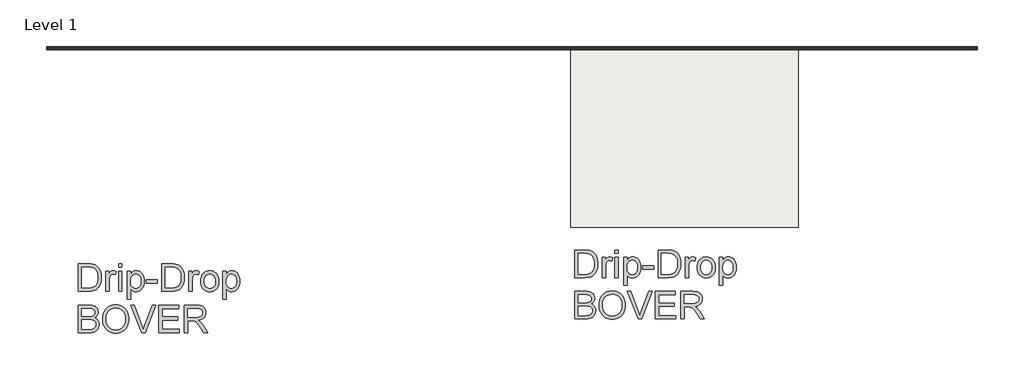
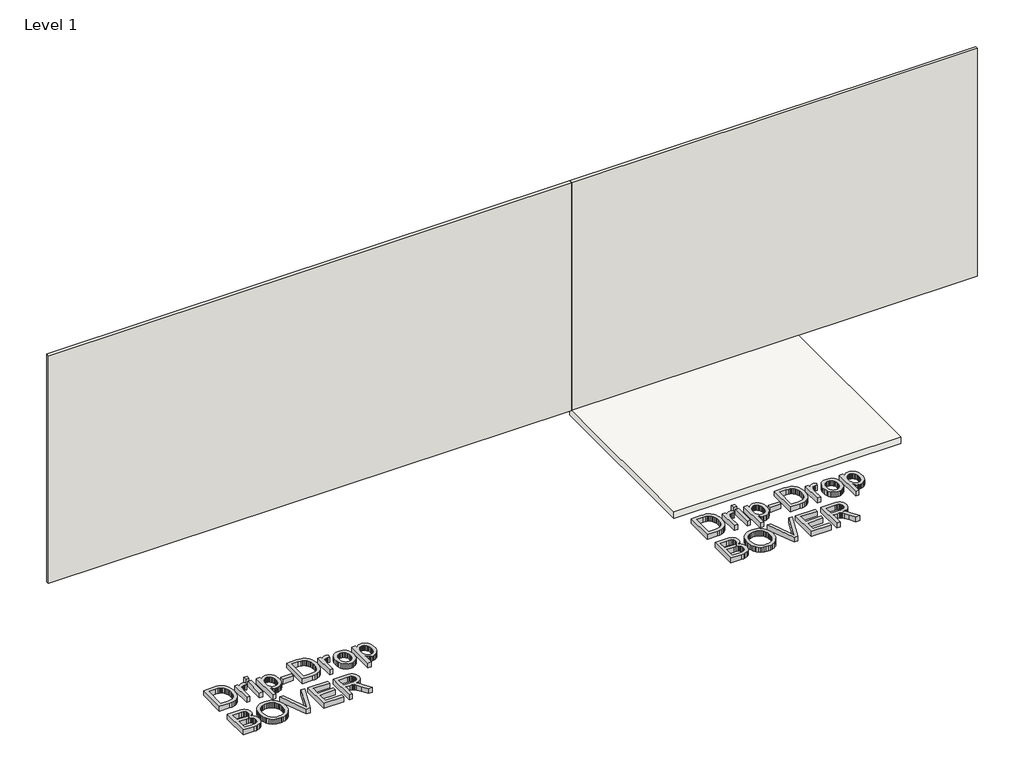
# One storey, incomplete: 4 proxies, 2 walls, 1 slab.
"""IFC4 building model written with IfcOpenShell, lengths in millimetres."""

import ifcopenshell
import ifcopenshell.guid

model = None  # the IFC model being written
_history = None  # IfcOwnerHistory: only IFC2X3 demands one
_inside = {}  # id of a spatial element -> (the spatial element, [elements in it])
_under = {}  # id of a project, library or spatial element -> (it, [spatial elements below it])
_declared = {}  # id of a project -> (the project, [libraries it declares])
_typed = {}  # id of a type object -> (the type object, [elements of that type])
_made_of = {}  # id of a material, layer set ... -> (it, [elements and type objects made of it])


def new_model(schema):
    """Start an empty IFC model of exactly this schema.

    Asked for "IFC4X3", IfcOpenShell would pick the latest addendum, in which some entities
    have other attributes; the version numbers below select the first issue.
    IFC2X3 requires an IfcOwnerHistory on every rooted entity: one is made here for all.
    """
    global model, _history
    if schema == "IFC4X3":
        model = ifcopenshell.file(schema_version=(4, 3, 0, 0))
    else:
        model = ifcopenshell.file(schema=schema)
    _inside.clear()
    _under.clear()
    _declared.clear()
    _typed.clear()
    _made_of.clear()
    _history = None
    if model.schema == "IFC2X3":
        org = make("IfcOrganization", Name="unknown")
        user = make(
            "IfcPersonAndOrganization",
            ThePerson=make("IfcPerson", FamilyName="unknown"),
            TheOrganization=org,
        )
        app = make(
            "IfcApplication",
            ApplicationDeveloper=org,
            Version="unknown",
            ApplicationFullName="unknown",
            ApplicationIdentifier="unknown",
        )
        _history = make(
            "IfcOwnerHistory",
            OwningUser=user,
            OwningApplication=app,
            ChangeAction="ADDED",
            CreationDate=0,
        )
    return model


def make(cls, **values):
    """One entity of the class cls with the attributes given. An attribute that is None is left unset."""
    return model.create_entity(
        cls, **{name: value for name, value in values.items() if value is not None}
    )


def rooted(cls, **values):
    """An entity with a GlobalId (a new one), such as an element, a storey or a relation."""
    return make(cls, GlobalId=ifcopenshell.guid.new(), OwnerHistory=_history, **values)


def si_unit(unit_type, name, prefix=None):
    """IfcSIUnit, for example si_unit("LENGTHUNIT", "METRE", prefix="MILLI")."""
    return make("IfcSIUnit", UnitType=unit_type, Prefix=prefix, Name=name)


def assignment(units):
    """IfcUnitAssignment: the units of a project."""
    return None if units is None else make("IfcUnitAssignment", Units=units)


def point(xyz):
    """IfcCartesianPoint."""
    return None if xyz is None else make("IfcCartesianPoint", Coordinates=xyz)


def direction(xyz):
    """IfcDirection."""
    return None if xyz is None else make("IfcDirection", DirectionRatios=xyz)


def frame(location, z_axis=None, x_axis=None):
    """IfcAxis2Placement3D, a coordinate frame: its origin and axes. An axis left out is left unset."""
    return make(
        "IfcAxis2Placement3D",
        Location=point(location),
        Axis=direction(z_axis),
        RefDirection=direction(x_axis),
    )


def origin():
    """The frame at (0, 0, 0) with its axes left unset."""
    return frame((0.0, 0.0, 0.0))


def origin_with_axes():
    """The frame at (0, 0, 0) with the z axis (0, 0, 1) and the x axis (1, 0, 0) written out."""
    return frame((0.0, 0.0, 0.0), z_axis=(0.0, 0.0, 1.0), x_axis=(1.0, 0.0, 0.0))


def place(relative_to, where):
    """IfcLocalPlacement: puts the frame where relative to a parent placement (None: the world)."""
    return make(
        "IfcLocalPlacement", PlacementRelTo=relative_to, RelativePlacement=where
    )


def context(
    kind, dimensions, precision=None, world=None, true_north=None, identifier=None
):
    """IfcGeometricRepresentationContext, for example the 3D "Model" context."""
    return make(
        "IfcGeometricRepresentationContext",
        ContextIdentifier=identifier,
        ContextType=kind,
        CoordinateSpaceDimension=dimensions,
        Precision=precision,
        WorldCoordinateSystem=world,
        TrueNorth=true_north,
    )


def project(units=None, contexts=None):
    """IfcProject with its units and contexts."""
    return rooted(
        "IfcProject",
        Name="project",
        RepresentationContexts=contexts,
        UnitsInContext=assignment(units),
    )


def spatial(cls, under=None, at=None, **own):
    """A site, building, storey or space (cls), placed at a placement, below another one or the project."""
    s = rooted(cls, ObjectPlacement=at, **own)
    if under is not None:
        _under.setdefault(under.id(), (under, []))[1].append(s)
    return s


def polyline(points):
    """IfcPolyline through the points."""
    return make("IfcPolyline", Points=[point(p) for p in points])


def outline(outer, holes=None, kind="AREA"):
    """IfcArbitraryClosedProfileDef: a profile drawn as a closed curve; with holes, ...WithVoids."""
    if holes is None:
        return make("IfcArbitraryClosedProfileDef", ProfileType=kind, OuterCurve=outer)
    return make(
        "IfcArbitraryProfileDefWithVoids",
        ProfileType=kind,
        OuterCurve=outer,
        InnerCurves=holes,
    )


def extrude(swept, where, along, depth):
    """IfcExtrudedAreaSolid: the profile swept, set in the frame where, extruded along a direction by depth."""
    return make(
        "IfcExtrudedAreaSolid",
        SweptArea=swept,
        Position=where,
        ExtrudedDirection=direction(along),
        Depth=depth,
    )


def shape(context_of_items, identifier, shape_type, items):
    """IfcShapeRepresentation: the items that make up one representation, for example the "Body"."""
    return make(
        "IfcShapeRepresentation",
        ContextOfItems=context_of_items,
        RepresentationIdentifier=identifier,
        RepresentationType=shape_type,
        Items=items,
    )


def made_of(thing, what):
    """Note that an element or type object is made of a material, layer set ...; save() writes the relation."""
    if what is not None:
        _made_of.setdefault(what.id(), (what, []))[1].append(thing)
    return thing


def element(
    cls,
    number,
    at=None,
    inside=None,
    cuts=None,
    type_object=None,
    material=None,
    context=None,
    identifier="Body",
    shape_type=None,
    held_by="IfcProductDefinitionShape",
    body=None,
    shapes=None,
    **own,
):
    """One element of the class cls, such as IfcWall. Its Tag is "e" and its number.

    at: its placement. inside: the storey or other place that contains it. cuts: it is an
    opening in that element (IfcRelVoidsElement). A single representation is given by context,
    identifier, shape_type and body (its items); several are given by shapes. held_by: the class
    of the entity that holds the representations. save() writes the other relations.
    """
    e = rooted(cls, Tag="e%d" % number, ObjectPlacement=at, **own)
    if body is not None:
        shapes = [shape(context, identifier, shape_type, body)]
    if shapes is not None:
        e.Representation = make(held_by, Representations=shapes)
    if inside is not None:
        _inside.setdefault(inside.id(), (inside, []))[1].append(e)
    if cuts is not None:
        rooted(
            "IfcRelVoidsElement", RelatingBuildingElement=cuts, RelatedOpeningElement=e
        )
    if type_object is not None:
        _typed.setdefault(type_object.id(), (type_object, []))[1].append(e)
    return made_of(e, material)


def aggregate(whole, parts):
    """IfcRelAggregates: a whole, such as a stair, and the parts it consists of."""
    return rooted("IfcRelAggregates", RelatingObject=whole, RelatedObjects=parts)


def save(model, path):
    """Write the relations noted so far, then the file.

    IfcRelAggregates (storeys below a building ...), IfcRelContainedInSpatialStructure (elements
    in a storey), IfcRelDefinesByType, IfcRelAssociatesMaterial and IfcRelDeclares: one each for
    every whole, place, type object, material and project.
    """
    for whole, parts in _under.values():
        aggregate(whole, parts)
    for where, things in _inside.values():
        rooted(
            "IfcRelContainedInSpatialStructure",
            RelatedElements=things,
            RelatingStructure=where,
        )
    for kind, things in _typed.values():
        rooted("IfcRelDefinesByType", RelatedObjects=things, RelatingType=kind)
    for what, things in _made_of.values():
        rooted("IfcRelAssociatesMaterial", RelatedObjects=things, RelatingMaterial=what)
    for by, libraries in _declared.values():
        rooted("IfcRelDeclares", RelatingContext=by, RelatedDefinitions=libraries)
    model.write(path)


model = new_model("IFC4")

# Units and contexts
model_context = context("Model", 3, world=origin())
ifc_project = project(units=[si_unit("LENGTHUNIT", "METRE", prefix="MILLI")], contexts=[model_context])

# Site, building, storey
site = spatial("IfcSite", under=ifc_project)
building = spatial("IfcBuilding", under=site)
storey = spatial("IfcBuildingStorey", under=building, Name="Level 1", Elevation=0.0)

# Proxies
placement = place(None, origin())
element("IfcBuildingElementProxy", 1, Name="800mm Arial", ObjectType="800mm Arial", at=placement, inside=storey, context=model_context, shape_type="SweptSolid", body=[
    extrude(outline(polyline([(-14278.0914545, -8300.9166363), (-14278.0914545, -7501.5279379), (-13973.0512847, -7501.5279379), (-13928.8041151, -7502.9977612), (-13889.1554798, -7507.407231), (-13854.1053787, -7514.7563474), (-13823.6538119, -7525.0451103), (-13797.0262251, -7538.3832992), (-13773.4480641, -7554.8806932), (-13752.9193291, -7574.5372924), (-13735.44002, -7597.3530969), (-13721.4797483, -7622.0412488), (-13711.5081256, -7647.3148905), (-13705.5251521, -7673.174022), (-13703.5308275, -7699.6186432), (-13705.2080118, -7724.0445445), (-13710.2395645, -7747.7507813), (-13718.6254856, -7770.7373536), (-13730.3657753, -7793.0042614), (-13745.4970265, -7813.8562356), (-13764.0558324, -7832.5980071), (-13786.042193, -7849.2295758), (-13811.4561083, -7863.7509419), (-13781.2972864, -7876.6073214), (-13754.8343686, -7893.3181752), (-13732.0673549, -7913.8835034), (-13712.9962455, -7938.3033058), (-13697.9259828, -7965.8335227), (-13687.1615094, -7995.730094), (-13680.7028254, -8027.9930199), (-13678.5499307, -8062.6223002), (-13684.4292238, -8118.3658053), (-13702.0671031, -8170.0596729), (-13728.3897473, -8214.0201964), (-13760.3233351, -8246.5636694), (-13799.4291727, -8270.1296326), (-13847.2685659, -8287.1576267), (-13905.4028209, -8297.4768839), (-13975.3932437, -8300.9166363), (-14278.0914545, -8300.9166363)]), holes=[polyline([(-14178.1678672, -7826.2795966), (-13995.6902224, -7826.2795966), (-13931.8718375, -7824.1328008), (-13889.1310844, -7817.6924134), (-13851.830507, -7802.8844013), (-13825.0199547, -7780.7089763), (-13808.8457998, -7751.507674), (-13803.4544148, -7715.6220303), (-13808.4798687, -7680.785389), (-13823.5562302, -7650.4375026), (-13848.0004281, -7626.7495624), (-13881.1293909, -7611.8927595), (-13931.9694192, -7604.0618338), (-14009.5468136, -7601.4515252), (-14178.1678672, -7601.4515252), (-14178.1678672, -7826.2795966)]), polyline([(-14178.1678672, -8200.993049), (-13973.2464479, -8200.993049), (-13899.0844105, -8197.0897839), (-13864.6624911, -8188.4294144), (-13836.3394235, -8175.3290808), (-13813.3101593, -8156.5690128), (-13794.7696499, -8130.9294399), (-13782.547551, -8099.5569465), (-13778.473518, -8063.5981165), (-13783.2550178, -8021.8331796), (-13797.5995171, -7985.9231404), (-13808.6445377, -7970.6577144), (-13822.6536002, -7957.8440269), (-13839.6267046, -7947.4820777), (-13859.563851, -7939.571867), (-13911.8432084, -7929.5453547), (-13983.0046107, -7926.2031839), (-14178.1678672, -7926.2031839), (-14178.1678672, -8200.993049)])]), origin_with_axes(), (0.0, 0.0, 1.0), 150.0),
    extrude(outline(polyline([(-13578.6263434, -7911.761103), (-13576.9613569, -7863.5344326), (-13571.9663973, -7817.997356), (-13563.6414646, -7775.1498729), (-13551.9865589, -7734.9919835), (-13537.0016801, -7697.5236876), (-13518.6868283, -7662.7449855), (-13497.0420034, -7630.6558769), (-13472.0672054, -7601.256362), (-13444.4607529, -7574.9550638), (-13414.9209644, -7552.1606053), (-13383.4478398, -7532.8729866), (-13350.0413793, -7517.0922076), (-13314.7015828, -7504.8182685), (-13277.4284502, -7496.0511691), (-13238.2219817, -7490.7909094), (-13197.0821771, -7489.0374895), (-13143.3025022, -7492.3308695), (-13092.2307176, -7502.2110093), (-13043.8668231, -7518.6779091), (-12998.2108188, -7541.7315688), (-12956.5434635, -7570.6767192), (-12920.1455162, -7604.8180914), (-12889.0169768, -7644.1556853), (-12863.1578453, -7688.6895009), (-12842.8364713, -7737.4071288), (-12828.3212041, -7789.2961596), (-12819.6120437, -7844.3565933), (-12816.7089903, -7902.5884299), (-12819.764515, -7961.5887219), (-12828.9310892, -8017.3932155), (-12844.2087129, -8070.0019108), (-12865.597386, -8119.4148078), (-12892.5909039, -8164.3267522), (-12924.6830619, -8203.4325897), (-12961.87386, -8236.7323203), (-13004.1632981, -8264.2259441), (-13049.8863898, -8285.7426931), (-13097.3781485, -8301.1117995), (-13146.6385741, -8310.3332634), (-13197.6676669, -8313.4070847), (-13252.3865649, -8310.0100243), (-13304.1292232, -8299.818843), (-13352.8956419, -8282.8335408), (-13398.685821, -8259.0541178), (-13440.3043854, -8229.4015005), (-13476.5559603, -8194.7966156), (-13507.4405456, -8155.2394631), (-13532.9581414, -8110.7300429), (-13552.9379798, -8063.0553187), (-13567.2092929, -8014.0022539), (-13575.7720808, -7963.5708487), (-13578.6263434, -7911.761103)]), holes=[polyline([(-13478.7027561, -7912.7369192), (-13473.7077965, -7978.9826471), (-13458.7229177, -8037.7877758), (-13433.7481198, -8089.1523054), (-13398.7834026, -8133.0762358), (-13356.2805047, -8168.2544127), (-13308.6911644, -8193.381682), (-13256.0153817, -8208.4580436), (-13198.2531566, -8213.4834974), (-13139.5029176, -8208.4092527), (-13086.205052, -8193.1865187), (-13038.3595599, -8167.8152954), (-12995.9664413, -8132.2955827), (-12977.372567, -8110.9343544), (-12961.2578759, -8087.4446269), (-12936.4660435, -8034.0796739), (-12921.5909441, -7972.2007239), (-12916.6325776, -7901.8077769), (-12918.754978, -7856.0785864), (-12925.1221792, -7813.3500309), (-12935.7341813, -7773.6221105), (-12950.5909842, -7736.8948252), (-12969.5279189, -7703.6499842), (-12992.3803165, -7674.3693969), (-13019.1481769, -7649.0530633), (-13049.8315001, -7627.7009832), (-13083.4788653, -7610.7522742), (-13119.1388515, -7598.6460534), (-13156.8114589, -7591.382321), (-13196.4966873, -7588.9610768), (-13252.2523901, -7593.6266984), (-13303.9828508, -7607.6235632), (-13351.6880693, -7630.9516712), (-13395.3680456, -7663.6110224), (-13414.8996184, -7683.8332901), (-13431.8269815, -7707.1751206), (-13446.1501348, -7733.6365136), (-13457.8690785, -7763.2174694), (-13466.9838125, -7795.9179879), (-13473.4943367, -7831.738069), (-13478.7027561, -7912.7369192)])]), origin_with_axes(), (0.0, 0.0, 1.0), 150.0),
    extrude(outline(polyline([(-12443.1665175, -8300.9166363), (-12761.2826255, -7501.5279379), (-12654.333161, -7501.5279379), (-12441.4100482, -8077.4547077), (-12398.2789685, -8207.2382732), (-12355.7333786, -8077.4547077), (-12142.2247761, -7501.5279379), (-12035.2753116, -7501.5279379), (-12339.9251548, -8300.9166363), (-12443.1665175, -8300.9166363)])), origin_with_axes(), (0.0, 0.0, 1.0), 150.0),
    extrude(outline(polyline([(-11942.3776015, -8300.9166363), (-11942.3776015, -7501.5279379), (-11367.8169746, -7501.5279379), (-11367.8169746, -7601.4515252), (-11842.4540142, -7601.4515252), (-11842.4540142, -7838.7700451), (-11392.7978714, -7838.7700451), (-11392.7978714, -7938.6936324), (-11842.4540142, -7938.6936324), (-11842.4540142, -8200.993049), (-11355.3265261, -8200.993049), (-11355.3265261, -8300.9166363), (-11942.3776015, -8300.9166363)])), origin_with_axes(), (0.0, 0.0, 1.0), 150.0),
    extrude(outline(polyline([(-11205.4411452, -8300.9166363), (-11205.4411452, -7501.5279379), (-10860.9779976, -7501.5279379), (-10768.3974278, -7506.9193229), (-10731.566462, -7513.6585541), (-10701.041709, -7523.0934778), (-10675.0484027, -7535.9498573), (-10651.8117775, -7552.953456), (-10631.3318333, -7574.1042739), (-10613.6085701, -7599.402311), (-10599.3067627, -7627.4875234), (-10589.091186, -7656.9998671), (-10582.96184, -7687.9393421), (-10580.9187246, -7720.3059484), (-10584.3035874, -7761.3634185), (-10594.4581755, -7799.0543224), (-10611.3824892, -7833.3786601), (-10635.0765283, -7864.3364317), (-10665.8452354, -7890.939623), (-10703.9935532, -7912.2002203), (-10749.5214816, -7928.1182234), (-10802.4290207, -7938.6936324), (-10769.4952212, -7960.2103814), (-10745.6365131, -7981.4343855), (-10704.70102, -8029.9812455), (-10664.6437616, -8084.2854216), (-10531.3472575, -8300.9166363), (-10647.4693951, -8300.9166363), (-10751.4914107, -8135.2230316), (-10826.6292645, -8025.5412815), (-10854.5620055, -7993.5589028), (-10879.4209253, -7973.7254369), (-10902.9624931, -7962.0888277), (-10926.9431783, -7954.6970194), (-10984.9066654, -7951.1840808), (-11105.5175579, -7951.1840808), (-11105.5175579, -8300.9166363), (-11205.4411452, -8300.9166363)]), holes=[polyline([(-11105.5175579, -7851.2604935), (-10881.860466, -7851.2604935), (-10817.6273593, -7847.7231594), (-10767.7875427, -7837.1111574), (-10730.2674066, -7818.7170205), (-10715.3496152, -7806.3363514), (-10702.9933415, -7791.8332819), (-10686.3800693, -7759.3142043), (-10680.8423119, -7724.0140503), (-10683.4831147, -7698.4598614), (-10691.4055232, -7675.272027), (-10704.6095372, -7654.4505471), (-10723.0951569, -7635.9954216), (-10747.2893019, -7620.882467), (-10777.6188917, -7610.0874993), (-10814.0839264, -7603.6105188), (-10856.684406, -7601.4515252), (-11105.5175579, -7601.4515252), (-11105.5175579, -7851.2604935)])]), origin_with_axes(), (0.0, 0.0, 1.0), 150.0),
])
element("IfcBuildingElementProxy", 2, Name="800mm Arial", ObjectType="800mm Arial", at=placement, inside=storey, context=model_context, shape_type="SweptSolid", body=[
    extrude(outline(polyline([(-14278.0914545, -7100.9166363), (-14278.0914545, -6301.5279379), (-14002.3257731, -6301.5279379), (-13919.9180881, -6304.406596), (-13859.6614327, -6313.0425701), (-13826.5568653, -6322.5445811), (-13795.9406294, -6335.2423905), (-13767.8127251, -6351.1359982), (-13742.1731523, -6370.2254042), (-13712.5449304, -6398.8168213), (-13686.8931599, -6431.1163402), (-13665.2178407, -6467.123961), (-13647.5189729, -6506.8396837), (-13633.7721611, -6549.8975772), (-13623.9530097, -6595.9317103), (-13618.0615189, -6644.942083), (-13616.0976886, -6696.9286955), (-13621.4158874, -6782.7273421), (-13637.3704836, -6858.2311269), (-13661.668309, -6922.5130245), (-13692.0161954, -6974.6460094), (-13726.9504183, -7015.8010611), (-13765.0072533, -7047.1491591), (-13808.6994273, -7070.3979821), (-13860.5396673, -7087.2552083), (-13920.6255549, -7097.5012793), (-13989.0546717, -7100.9166363), (-14278.0914545, -7100.9166363)]), holes=[polyline([(-14178.1678672, -7000.993049), (-14001.3499568, -7000.993049), (-13928.2125265, -6997.3825288), (-13872.7373708, -6986.550968), (-13830.8748523, -6969.1326474), (-13798.5753334, -6945.7618474), (-13780.1385045, -6925.7271194), (-13763.8606692, -6902.5087907), (-13749.7418273, -6876.1068614), (-13737.781979, -6846.5213315), (-13728.2616714, -6813.6912125), (-13721.4614517, -6777.5555158), (-13716.0212759, -6695.3673894), (-13718.6864742, -6637.3551115), (-13726.6820688, -6586.4662923), (-13740.0080599, -6542.7009321), (-13758.6644475, -6506.0590307), (-13781.1387162, -6475.7111443), (-13805.9183509, -6450.8278291), (-13833.0033516, -6431.4090851), (-13862.3937183, -6417.4549123), (-13887.789337, -6410.4534304), (-13919.8692973, -6405.452372), (-14004.0822424, -6401.4515252), (-14178.1678672, -6401.4515252), (-14178.1678672, -7000.993049)])]), origin_with_axes(), (0.0, 0.0, 1.0), 150.0),
    extrude(outline(polyline([(-13491.1932045, -7100.9166363), (-13491.1932045, -6513.8655609), (-13403.7600656, -6513.8655609), (-13403.7600656, -6600.7132101), (-13371.4605467, -6550.3610899), (-13356.2622081, -6532.9427693), (-13341.6981501, -6520.6962749), (-13311.8381719, -6506.2054031), (-13279.245908, -6501.3751125), (-13254.4601745, -6503.3023497), (-13229.4792777, -6509.0840612), (-13204.3032176, -6518.7202469), (-13178.9319942, -6532.210907), (-13212.3049111, -6621.7908417), (-13247.4342972, -6606.4217353), (-13282.5636834, -6601.2986998), (-13312.3992662, -6606.226572), (-13339.0634461, -6621.0101887), (-13360.6045906, -6644.5273611), (-13375.071067, -6675.6559005), (-13387.2199797, -6731.4725919), (-13391.2696172, -6792.3635279), (-13391.2696172, -7100.9166363), (-13491.1932045, -7100.9166363)])), origin_with_axes(), (0.0, 0.0, 1.0), 150.0),
    extrude(outline(polyline([(-13116.4797522, -6401.4515252), (-13116.4797522, -6301.5279379), (-13016.5561649, -6301.5279379), (-13016.5561649, -6401.4515252), (-13116.4797522, -6401.4515252)])), origin_with_axes(), (0.0, 0.0, 1.0), 150.0),
    extrude(outline(polyline([(-13116.4797522, -7100.9166363), (-13116.4797522, -6513.8655609), (-13016.5561649, -6513.8655609), (-13016.5561649, -7100.9166363), (-13116.4797522, -7100.9166363)])), origin_with_axes(), (0.0, 0.0, 1.0), 150.0),
    extrude(outline(polyline([(-12866.6707839, -7325.7447077), (-12866.6707839, -6513.8655609), (-12766.7471967, -6513.8655609), (-12766.7471967, -6611.8375157), (-12734.1549328, -6563.5102143), (-12716.3950765, -6544.5244888), (-12697.6594039, -6528.9907133), (-12677.411216, -6516.908888), (-12655.113814, -6508.2790127), (-12630.7671977, -6503.1010876), (-12604.3713673, -6501.3751125), (-12569.5225283, -6503.7902578), (-12536.7960898, -6511.0356937), (-12506.1920516, -6523.1114202), (-12477.7104139, -6540.0174373), (-12451.9732594, -6561.3146277), (-12429.6026712, -6586.563874), (-12410.5986491, -6615.7651762), (-12394.9611932, -6648.9185344), (-12382.7512919, -6684.8895621), (-12374.0299339, -6722.5438729), (-12368.7971191, -6761.8814668), (-12367.0528475, -6802.9023437), (-12369.0227766, -6846.7591867), (-12374.932564, -6888.3594546), (-12384.7822096, -6927.7031474), (-12398.5717134, -6964.7902649), (-12416.1120111, -6998.6510899), (-12437.2140382, -7028.3159049), (-12461.8777947, -7053.7847099), (-12490.1032807, -7075.0575048), (-12520.5060567, -7091.835446), (-12551.7016835, -7103.8196897), (-12583.690161, -7111.010236), (-12616.4714892, -7113.4070847), (-12640.055749, -7111.8030867), (-12662.4080407, -7106.9910926), (-12683.5283643, -7098.9711026), (-12703.4167199, -7087.7431165), (-12738.5217107, -7058.6881867), (-12766.7471967, -7022.8513337), (-12766.7471967, -7325.7447077), (-12866.6707839, -7325.7447077)]), holes=[polyline([(-12766.7471967, -6812.0750168), (-12764.0454053, -6860.2315503), (-12755.9400313, -6901.6549515), (-12742.4310747, -6936.3452203), (-12723.5185354, -6964.3023568), (-12700.7515217, -6985.8191058), (-12675.6791421, -7001.1882123), (-12648.3013966, -7010.4096761), (-12618.618285, -7013.4834974), (-12588.5082539, -7010.2998968), (-12560.6304025, -7000.7490949), (-12534.9847308, -6984.8310918), (-12511.5712389, -6962.5458875), (-12492.0610121, -6933.5763416), (-12478.1251358, -6897.6053139), (-12469.76361, -6854.6328044), (-12466.9764348, -6804.658813), (-12469.6965227, -6756.9170014), (-12477.8567863, -6715.5667865), (-12491.4572258, -6680.6081682), (-12510.497841, -6652.0411465), (-12533.3197443, -6629.8413261), (-12558.264048, -6613.9843115), (-12585.3307521, -6604.4701027), (-12614.5198566, -6601.2986998), (-12643.6174784, -6604.6713648), (-12670.995224, -6614.7893599), (-12696.6530933, -6631.6526851), (-12720.5910865, -6655.2613402), (-12740.7843847, -6685.2981852), (-12755.2081691, -6721.4460796), (-12763.8624398, -6763.7050234), (-12766.7471967, -6812.0750168)])]), origin_with_axes(), (0.0, 0.0, 1.0), 150.0),
    extrude(outline(polyline([(-12304.6006054, -6863.5981165), (-12304.6006054, -6763.6745292), (-11992.3393951, -6763.6745292), (-11992.3393951, -6863.5981165), (-12304.6006054, -6863.5981165)])), origin_with_axes(), (0.0, 0.0, 1.0), 150.0),
    extrude(outline(polyline([(-11867.434911, -7100.9166363), (-11867.434911, -6301.5279379), (-11591.6692297, -6301.5279379), (-11509.2615447, -6304.406596), (-11449.0048892, -6313.0425701), (-11415.9003219, -6322.5445811), (-11385.284086, -6335.2423905), (-11357.1561817, -6351.1359982), (-11331.5166089, -6370.2254042), (-11301.888387, -6398.8168213), (-11276.2366165, -6431.1163402), (-11254.5612973, -6467.123961), (-11236.8624295, -6506.8396837), (-11223.1156176, -6549.8975772), (-11213.2964663, -6595.9317103), (-11207.4049755, -6644.942083), (-11205.4411452, -6696.9286955), (-11210.7593439, -6782.7273421), (-11226.7139402, -6858.2311269), (-11251.0117656, -6922.5130245), (-11281.359652, -6974.6460094), (-11316.2938749, -7015.8010611), (-11354.3507099, -7047.1491591), (-11398.0428839, -7070.3979821), (-11449.8831239, -7087.2552083), (-11509.9690115, -7097.5012793), (-11578.3981282, -7100.9166363), (-11867.434911, -7100.9166363)]), holes=[polyline([(-11767.5113237, -7000.993049), (-11590.6934134, -7000.993049), (-11517.5559831, -6997.3825288), (-11462.0808274, -6986.550968), (-11420.2183089, -6969.1326474), (-11387.91879, -6945.7618474), (-11369.4819611, -6925.7271194), (-11353.2041257, -6902.5087907), (-11339.0852839, -6876.1068614), (-11327.1254356, -6846.5213315), (-11317.605128, -6813.6912125), (-11310.8049083, -6777.5555158), (-11305.3647325, -6695.3673894), (-11308.0299307, -6637.3551115), (-11316.0255254, -6586.4662923), (-11329.3515165, -6542.7009321), (-11348.007904, -6506.0590307), (-11370.4821728, -6475.7111443), (-11395.2618075, -6450.8278291), (-11422.3468082, -6431.4090851), (-11451.7371748, -6417.4549123), (-11477.1327936, -6410.4534304), (-11509.2127538, -6405.452372), (-11593.425699, -6401.4515252), (-11767.5113237, -6401.4515252), (-11767.5113237, -7000.993049)])]), origin_with_axes(), (0.0, 0.0, 1.0), 150.0),
    extrude(outline(polyline([(-11080.5366611, -7100.9166363), (-11080.5366611, -6513.8655609), (-10993.1035222, -6513.8655609), (-10993.1035222, -6600.7132101), (-10960.8040033, -6550.3610899), (-10945.6056647, -6532.9427693), (-10931.0416067, -6520.6962749), (-10901.1816284, -6506.2054031), (-10868.5893646, -6501.3751125), (-10843.803631, -6503.3023497), (-10818.8227342, -6509.0840612), (-10793.6466741, -6518.7202469), (-10768.2754508, -6532.210907), (-10801.6483676, -6621.7908417), (-10836.7777538, -6606.4217353), (-10871.90714, -6601.2986998), (-10901.7427228, -6606.226572), (-10928.4069027, -6621.0101887), (-10949.9480471, -6644.5273611), (-10964.4145235, -6675.6559005), (-10976.5634362, -6731.4725919), (-10980.6130738, -6792.3635279), (-10980.6130738, -7100.9166363), (-11080.5366611, -7100.9166363)])), origin_with_axes(), (0.0, 0.0, 1.0), 150.0),
    extrude(outline(polyline([(-10730.8041056, -6807.3910986), (-10725.4005229, -6731.3628125), (-10718.6460446, -6697.2915772), (-10709.1897749, -6665.8489469), (-10697.0317139, -6637.0349217), (-10682.1718616, -6610.8495017), (-10664.6102179, -6587.2926867), (-10644.346783, -6566.3644769), (-10606.2655526, -6537.93163), (-10564.2322662, -6517.6224536), (-10518.2469239, -6505.4369478), (-10468.3095257, -6501.3751125), (-10413.1820046, -6506.3212813), (-10363.3360891, -6521.1597877), (-10318.7717793, -6545.8906316), (-10279.4890751, -6580.513813), (-10247.4274113, -6623.8583525), (-10224.526223, -6674.7532705), (-10210.78551, -6733.1985669), (-10206.2052723, -6799.1942418), (-10208.2300911, -6852.6811718), (-10214.3045474, -6900.1424362), (-10224.4286413, -6941.5780351), (-10238.6023728, -6976.9879685), (-10256.6488752, -7007.57371), (-10278.3912818, -7034.5367337), (-10303.8295925, -7057.8770394), (-10332.9638073, -7077.5946271), (-10364.6595399, -7093.2625773), (-10397.7824039, -7104.4539703), (-10432.3323991, -7111.1688061), (-10468.3095257, -7113.4070847), (-10524.2420952, -7108.4792125), (-10574.5515234, -7093.6955958), (-10619.2378103, -7069.0562347), (-10658.3009558, -7034.5611291), (-10690.0210838, -6990.7957688), (-10712.6783181, -6938.3456437), (-10726.2726587, -6877.2107536), (-10730.8041056, -6807.3910986)]), holes=[polyline([(-10630.8805183, -6807.1959354), (-10627.9896625, -6855.6635103), (-10619.3170953, -6897.6297093), (-10604.8628166, -6933.0945323), (-10584.6268265, -6962.0579793), (-10560.0118608, -6984.5566435), (-10532.4206554, -7000.6271179), (-10501.8532104, -7010.2694025), (-10468.3095257, -7013.4834974), (-10434.9366088, -7010.251106), (-10404.4911408, -7000.5539317), (-10376.9731217, -6984.3919745), (-10352.3825513, -6961.7652345), (-10332.1465612, -6932.5151414), (-10317.6922825, -6896.4831252), (-10309.0197153, -6853.6691858), (-10306.1288596, -6804.0733233), (-10309.0380119, -6757.1426589), (-10317.7654687, -6716.2742533), (-10332.3112302, -6681.4681063), (-10352.6752962, -6652.7242179), (-10377.3573493, -6630.2255537), (-10404.8570719, -6614.1550793), (-10435.174464, -6604.5127947), (-10468.3095257, -6601.2986998), (-10501.8532104, -6604.500597), (-10532.4206554, -6614.1062885), (-10560.0118608, -6630.1157744), (-10584.6268265, -6652.5290546), (-10604.8628166, -6681.4071177), (-10619.3170953, -6716.8109522), (-10627.9896625, -6758.7405581), (-10630.8805183, -6807.1959354)])]), origin_with_axes(), (0.0, 0.0, 1.0), 150.0),
    extrude(outline(polyline([(-10093.7912366, -7325.7447077), (-10093.7912366, -6513.8655609), (-9993.8676493, -6513.8655609), (-9993.8676493, -6611.8375157), (-9961.2753855, -6563.5102143), (-9943.5155291, -6544.5244888), (-9924.7798565, -6528.9907133), (-9904.5316686, -6516.908888), (-9882.2342666, -6508.2790127), (-9857.8876504, -6503.1010876), (-9831.4918199, -6501.3751125), (-9796.642981, -6503.7902578), (-9763.9165424, -6511.0356937), (-9733.3125042, -6523.1114202), (-9704.8308665, -6540.0174373), (-9679.0937121, -6561.3146277), (-9656.7231238, -6586.563874), (-9637.7191017, -6615.7651762), (-9622.0816458, -6648.9185344), (-9609.8717445, -6684.8895621), (-9601.1503865, -6722.5438729), (-9595.9175717, -6761.8814668), (-9594.1733001, -6802.9023437), (-9596.1432292, -6846.7591867), (-9602.0530166, -6888.3594546), (-9611.9026622, -6927.7031474), (-9625.692166, -6964.7902649), (-9643.2324637, -6998.6510899), (-9664.3344908, -7028.3159049), (-9688.9982473, -7053.7847099), (-9717.2237333, -7075.0575048), (-9747.6265093, -7091.835446), (-9778.8221361, -7103.8196897), (-9810.8106136, -7111.010236), (-9843.5919418, -7113.4070847), (-9867.1762016, -7111.8030867), (-9889.5284933, -7106.9910926), (-9910.648817, -7098.9711026), (-9930.5371726, -7087.7431165), (-9965.6421633, -7058.6881867), (-9993.8676493, -7022.8513337), (-9993.8676493, -7325.7447077), (-10093.7912366, -7325.7447077)]), holes=[polyline([(-9993.8676493, -6812.0750168), (-9991.1658579, -6860.2315503), (-9983.060484, -6901.6549515), (-9969.5515273, -6936.3452203), (-9950.638988, -6964.3023568), (-9927.8719743, -6985.8191058), (-9902.7995947, -7001.1882123), (-9875.4218492, -7010.4096761), (-9845.7387376, -7013.4834974), (-9815.6287065, -7010.2998968), (-9787.7508551, -7000.7490949), (-9762.1051834, -6984.8310918), (-9738.6916915, -6962.5458875), (-9719.1814647, -6933.5763416), (-9705.2455884, -6897.6053139), (-9696.8840627, -6854.6328044), (-9694.0968874, -6804.658813), (-9696.8169753, -6756.9170014), (-9704.9772389, -6715.5667865), (-9718.5776784, -6680.6081682), (-9737.6182936, -6652.0411465), (-9760.4401969, -6629.8413261), (-9785.3845006, -6613.9843115), (-9812.4512047, -6604.4701027), (-9841.6403093, -6601.2986998), (-9870.737931, -6604.6713648), (-9898.1156766, -6614.7893599), (-9923.773546, -6631.6526851), (-9947.7115391, -6655.2613402), (-9967.9048373, -6685.2981852), (-9982.3286217, -6721.4460796), (-9990.9828924, -6763.7050234), (-9993.8676493, -6812.0750168)])]), origin_with_axes(), (0.0, 0.0, 1.0), 150.0),
])
element("IfcBuildingElementProxy", 3, Name="800mm Arial", ObjectType="800mm Arial", at=placement, inside=storey, context=model_context, shape_type="SweptSolid", body=[
    extrude(outline(polyline([(121.9085455, -7900.9166363), (121.9085455, -7101.5279379), (426.9487153, -7101.5279379), (471.1958849, -7102.9977612), (510.8445202, -7107.407231), (545.8946213, -7114.7563474), (576.3461881, -7125.0451103), (602.9737749, -7138.3832992), (626.5519359, -7154.8806932), (647.0806709, -7174.5372924), (664.55998, -7197.3530969), (678.5202517, -7222.0412488), (688.4918744, -7247.3148905), (694.4748479, -7273.174022), (696.4691725, -7299.6186432), (694.7919882, -7324.0445445), (689.7604355, -7347.7507813), (681.3745144, -7370.7373536), (669.6342247, -7393.0042614), (654.5029735, -7413.8562356), (635.9441676, -7432.5980071), (613.957807, -7449.2295758), (588.5438917, -7463.7509419), (618.7027136, -7476.6073214), (645.1656314, -7493.3181752), (667.9326451, -7513.8835034), (687.0037545, -7538.3033058), (702.0740172, -7565.8335227), (712.8384906, -7595.730094), (719.2971746, -7627.9930199), (721.4500693, -7662.6223002), (715.5707762, -7718.3658053), (697.9328969, -7770.0596729), (671.6102527, -7814.0201964), (639.6766649, -7846.5636694), (600.5708273, -7870.1296326), (552.7314341, -7887.1576267), (494.5971791, -7897.4768839), (424.6067563, -7900.9166363), (121.9085455, -7900.9166363)]), holes=[polyline([(221.8321328, -7426.2795966), (404.3097776, -7426.2795966), (468.1281625, -7424.1328008), (510.8689156, -7417.6924134), (548.169493, -7402.8844013), (574.9800453, -7380.7089763), (591.1542002, -7351.507674), (596.5455852, -7315.6220303), (591.5201313, -7280.785389), (576.4437698, -7250.4375026), (551.9995719, -7226.7495624), (518.8706091, -7211.8927595), (468.0305808, -7204.0618338), (390.4531864, -7201.4515252), (221.8321328, -7201.4515252), (221.8321328, -7426.2795966)]), polyline([(221.8321328, -7800.993049), (426.7535521, -7800.993049), (500.9155895, -7797.0897839), (535.3375089, -7788.4294144), (563.6605765, -7775.3290808), (586.6898407, -7756.5690128), (605.2303501, -7730.9294399), (617.452449, -7699.5569465), (621.526482, -7663.5981165), (616.7449822, -7621.8331796), (602.4004829, -7585.9231404), (591.3554623, -7570.6577144), (577.3463998, -7557.8440269), (560.3732954, -7547.4820777), (540.436149, -7539.571867), (488.1567916, -7529.5453547), (416.9953893, -7526.2031839), (221.8321328, -7526.2031839), (221.8321328, -7800.993049)])]), origin_with_axes(), (0.0, 0.0, 1.0), 150.0),
    extrude(outline(polyline([(821.3736566, -7511.761103), (823.0386431, -7463.5344326), (828.0336027, -7417.997356), (836.3585354, -7375.1498729), (848.0134411, -7334.9919835), (862.9983199, -7297.5236876), (881.3131717, -7262.7449855), (902.9579966, -7230.6558769), (927.9327946, -7201.256362), (955.5392471, -7174.9550638), (985.0790356, -7152.1606053), (1016.5521602, -7132.8729866), (1049.9586207, -7117.0922076), (1085.2984172, -7104.8182685), (1122.5715498, -7096.0511691), (1161.7780183, -7090.7909094), (1202.9178229, -7089.0374895), (1256.6974978, -7092.3308695), (1307.7692824, -7102.2110093), (1356.1331769, -7118.6779091), (1401.7891812, -7141.7315688), (1443.4565365, -7170.6767192), (1479.8544838, -7204.8180914), (1510.9830232, -7244.1556853), (1536.8421547, -7288.6895009), (1557.1635287, -7337.4071288), (1571.6787959, -7389.2961596), (1580.3879563, -7444.3565933), (1583.2910097, -7502.5884299), (1580.235485, -7561.5887219), (1571.0689108, -7617.3932155), (1555.7912871, -7670.0019108), (1534.402614, -7719.4148078), (1507.4090961, -7764.3267522), (1475.3169381, -7803.4325897), (1438.12614, -7836.7323203), (1395.8367019, -7864.2259441), (1350.1136102, -7885.7426931), (1302.6218515, -7901.1117995), (1253.3614259, -7910.3332634), (1202.3323331, -7913.4070847), (1147.6134351, -7910.0100243), (1095.8707768, -7899.818843), (1047.1043581, -7882.8335408), (1001.314179, -7859.0541178), (959.6956146, -7829.4015005), (923.4440397, -7794.7966156), (892.5594544, -7755.2394631), (867.0418586, -7710.7300429), (847.0620202, -7663.0553187), (832.7907071, -7614.0022539), (824.2279192, -7563.5708487), (821.3736566, -7511.761103)]), holes=[polyline([(921.2972439, -7512.7369192), (926.2922035, -7578.9826471), (941.2770823, -7637.7877758), (966.2518802, -7689.1523054), (1001.2165974, -7733.0762358), (1043.7194953, -7768.2544127), (1091.3088356, -7793.381682), (1143.9846183, -7808.4580436), (1201.7468434, -7813.4834974), (1260.4970824, -7808.4092527), (1313.794948, -7793.1865187), (1361.6404401, -7767.8152954), (1404.0335587, -7732.2955827), (1422.627433, -7710.9343544), (1438.7421241, -7687.4446269), (1463.5339565, -7634.0796739), (1478.4090559, -7572.2007239), (1483.3674224, -7501.8077769), (1481.245022, -7456.0785864), (1474.8778208, -7413.3500309), (1464.2658187, -7373.6221105), (1449.4090158, -7336.8948252), (1430.4720811, -7303.6499842), (1407.6196835, -7274.3693969), (1380.8518231, -7249.0530633), (1350.1684999, -7227.7009832), (1316.5211347, -7210.7522742), (1280.8611485, -7198.6460534), (1243.1885411, -7191.382321), (1203.5033127, -7188.9610768), (1147.7476099, -7193.6266984), (1096.0171492, -7207.6235632), (1048.3119307, -7230.9516712), (1004.6319544, -7263.6110224), (985.1003816, -7283.8332901), (968.1730185, -7307.1751206), (953.8498652, -7333.6365136), (942.1309215, -7363.2174694), (933.0161875, -7395.9179879), (926.5056633, -7431.738069), (921.2972439, -7512.7369192)])]), origin_with_axes(), (0.0, 0.0, 1.0), 150.0),
    extrude(outline(polyline([(1956.8334825, -7900.9166363), (1638.7173745, -7101.5279379), (1745.666839, -7101.5279379), (1958.5899518, -7677.4547077), (2001.7210315, -7807.2382732), (2044.2666214, -7677.4547077), (2257.7752239, -7101.5279379), (2364.7246884, -7101.5279379), (2060.0748452, -7900.9166363), (1956.8334825, -7900.9166363)])), origin_with_axes(), (0.0, 0.0, 1.0), 150.0),
    extrude(outline(polyline([(2457.6223985, -7900.9166363), (2457.6223985, -7101.5279379), (3032.1830254, -7101.5279379), (3032.1830254, -7201.4515252), (2557.5459858, -7201.4515252), (2557.5459858, -7438.7700451), (3007.2021286, -7438.7700451), (3007.2021286, -7538.6936324), (2557.5459858, -7538.6936324), (2557.5459858, -7800.993049), (3044.6734739, -7800.993049), (3044.6734739, -7900.9166363), (2457.6223985, -7900.9166363)])), origin_with_axes(), (0.0, 0.0, 1.0), 150.0),
    extrude(outline(polyline([(3194.5588548, -7900.9166363), (3194.5588548, -7101.5279379), (3539.0220024, -7101.5279379), (3631.6025722, -7106.9193229), (3668.433538, -7113.6585541), (3698.958291, -7123.0934778), (3724.9515973, -7135.9498573), (3748.1882225, -7152.953456), (3768.6681667, -7174.1042739), (3786.3914299, -7199.402311), (3800.6932373, -7227.4875234), (3810.908814, -7256.9998671), (3817.03816, -7287.9393421), (3819.0812754, -7320.3059484), (3815.6964126, -7361.3634185), (3805.5418245, -7399.0543224), (3788.6175108, -7433.3786601), (3764.9234717, -7464.3364317), (3734.1547646, -7490.939623), (3696.0064468, -7512.2002203), (3650.4785184, -7528.1182234), (3597.5709793, -7538.6936324), (3630.5047788, -7560.2103814), (3654.3634869, -7581.4343855), (3695.29898, -7629.9812455), (3735.3562384, -7684.2854216), (3868.6527425, -7900.9166363), (3752.5306049, -7900.9166363), (3648.5085893, -7735.2230316), (3573.3707355, -7625.5412815), (3545.4379945, -7593.5589028), (3520.5790747, -7573.7254369), (3497.0375069, -7562.0888277), (3473.0568217, -7554.6970194), (3415.0933346, -7551.1840808), (3294.4824421, -7551.1840808), (3294.4824421, -7900.9166363), (3194.5588548, -7900.9166363)]), holes=[polyline([(3294.4824421, -7451.2604935), (3518.139534, -7451.2604935), (3582.3726407, -7447.7231594), (3632.2124573, -7437.1111574), (3669.7325934, -7418.7170205), (3684.6503848, -7406.3363514), (3697.0066585, -7391.8332819), (3713.6199307, -7359.3142043), (3719.1576881, -7324.0140503), (3716.5168853, -7298.4598614), (3708.5944768, -7275.272027), (3695.3904628, -7254.4505471), (3676.9048431, -7235.9954216), (3652.7106981, -7220.882467), (3622.3811083, -7210.0874993), (3585.9160736, -7203.6105188), (3543.315594, -7201.4515252), (3294.4824421, -7201.4515252), (3294.4824421, -7451.2604935)])]), origin_with_axes(), (0.0, 0.0, 1.0), 150.0),
])
element("IfcBuildingElementProxy", 4, Name="800mm Arial", ObjectType="800mm Arial", at=placement, inside=storey, context=model_context, shape_type="SweptSolid", body=[
    extrude(outline(polyline([(121.9085455, -6700.9166363), (121.9085455, -5901.5279379), (397.6742269, -5901.5279379), (480.0819119, -5904.406596), (540.3385673, -5913.0425701), (573.4431347, -5922.5445811), (604.0593706, -5935.2423905), (632.1872749, -5951.1359982), (657.8268477, -5970.2254042), (687.4550696, -5998.8168213), (713.1068401, -6031.1163402), (734.7821593, -6067.123961), (752.4810271, -6106.8396837), (766.2278389, -6149.8975772), (776.0469903, -6195.9317103), (781.9384811, -6244.942083), (783.9023114, -6296.9286955), (778.5841126, -6382.7273421), (762.6295164, -6458.2311269), (738.331691, -6522.5130245), (707.9838046, -6574.6460094), (673.0495817, -6615.8010611), (634.9927467, -6647.1491591), (591.3005727, -6670.3979821), (539.4603327, -6687.2552083), (479.3744451, -6697.5012793), (410.9453283, -6700.9166363), (121.9085455, -6700.9166363)]), holes=[polyline([(221.8321328, -6600.993049), (398.6500432, -6600.993049), (471.7874735, -6597.3825288), (527.2626292, -6586.550968), (569.1251477, -6569.1326474), (601.4246666, -6545.7618474), (619.8614955, -6525.7271194), (636.1393308, -6502.5087907), (650.2581727, -6476.1068614), (662.218021, -6446.5213315), (671.7383286, -6413.6912125), (678.5385483, -6377.5555158), (683.9787241, -6295.3673894), (681.3135258, -6237.3551115), (673.3179312, -6186.4662923), (659.9919401, -6142.7009321), (641.3355525, -6106.0590307), (618.8612838, -6075.7111443), (594.0816491, -6050.8278291), (566.9966484, -6031.4090851), (537.6062817, -6017.4549123), (512.210663, -6010.4534304), (480.1307027, -6005.452372), (395.9177576, -6001.4515252), (221.8321328, -6001.4515252), (221.8321328, -6600.993049)])]), origin_with_axes(), (0.0, 0.0, 1.0), 150.0),
    extrude(outline(polyline([(908.8067955, -6700.9166363), (908.8067955, -6113.8655609), (996.2399344, -6113.8655609), (996.2399344, -6200.7132101), (1028.5394533, -6150.3610899), (1043.7377919, -6132.9427693), (1058.3018499, -6120.6962749), (1088.1618281, -6106.2054031), (1120.754092, -6101.3751125), (1145.5398255, -6103.3023497), (1170.5207223, -6109.0840612), (1195.6967824, -6118.7202469), (1221.0680058, -6132.210907), (1187.6950889, -6221.7908417), (1152.5657028, -6206.4217353), (1117.4363166, -6201.2986998), (1087.6007338, -6206.226572), (1060.9365539, -6221.0101887), (1039.3954094, -6244.5273611), (1024.928933, -6275.6559005), (1012.7800203, -6331.4725919), (1008.7303828, -6392.3635279), (1008.7303828, -6700.9166363), (908.8067955, -6700.9166363)])), origin_with_axes(), (0.0, 0.0, 1.0), 150.0),
    extrude(outline(polyline([(1283.5202478, -6001.4515252), (1283.5202478, -5901.5279379), (1383.4438351, -5901.5279379), (1383.4438351, -6001.4515252), (1283.5202478, -6001.4515252)])), origin_with_axes(), (0.0, 0.0, 1.0), 150.0),
    extrude(outline(polyline([(1283.5202478, -6700.9166363), (1283.5202478, -6113.8655609), (1383.4438351, -6113.8655609), (1383.4438351, -6700.9166363), (1283.5202478, -6700.9166363)])), origin_with_axes(), (0.0, 0.0, 1.0), 150.0),
    extrude(outline(polyline([(1533.3292161, -6925.7447077), (1533.3292161, -6113.8655609), (1633.2528033, -6113.8655609), (1633.2528033, -6211.8375157), (1665.8450672, -6163.5102143), (1683.6049235, -6144.5244888), (1702.3405961, -6128.9907133), (1722.588784, -6116.908888), (1744.886186, -6108.2790127), (1769.2328023, -6103.1010876), (1795.6286327, -6101.3751125), (1830.4774717, -6103.7902578), (1863.2039102, -6111.0356937), (1893.8079484, -6123.1114202), (1922.2895861, -6140.0174373), (1948.0267406, -6161.3146277), (1970.3973288, -6186.563874), (1989.4013509, -6215.7651762), (2005.0388068, -6248.9185344), (2017.2487081, -6284.8895621), (2025.9700661, -6322.5438729), (2031.2028809, -6361.8814668), (2032.9471525, -6402.9023437), (2030.9772234, -6446.7591867), (2025.067436, -6488.3594546), (2015.2177904, -6527.7031474), (2001.4282866, -6564.7902649), (1983.8879889, -6598.6510899), (1962.7859618, -6628.3159049), (1938.1222053, -6653.7847099), (1909.8967193, -6675.0575048), (1879.4939433, -6691.835446), (1848.2983165, -6703.8196897), (1816.309839, -6711.010236), (1783.5285108, -6713.4070847), (1759.944251, -6711.8030867), (1737.5919593, -6706.9910926), (1716.4716357, -6698.9711026), (1696.5832801, -6687.7431165), (1661.4782893, -6658.6881867), (1633.2528033, -6622.8513337), (1633.2528033, -6925.7447077), (1533.3292161, -6925.7447077)]), holes=[polyline([(1633.2528033, -6412.0750168), (1635.9545947, -6460.2315503), (1644.0599687, -6501.6549515), (1657.5689253, -6536.3452203), (1676.4814646, -6564.3023568), (1699.2484783, -6585.8191058), (1724.3208579, -6601.1882123), (1751.6986034, -6610.4096761), (1781.381715, -6613.4834974), (1811.4917461, -6610.2998968), (1839.3695975, -6600.7490949), (1865.0152692, -6584.8310918), (1888.4287611, -6562.5458875), (1907.9389879, -6533.5763416), (1921.8748642, -6497.6053139), (1930.23639, -6454.6328044), (1933.0235652, -6404.658813), (1930.3034773, -6356.9170014), (1922.1432137, -6315.5667865), (1908.5427742, -6280.6081682), (1889.502159, -6252.0411465), (1866.6802557, -6229.8413261), (1841.735952, -6213.9843115), (1814.6692479, -6204.4701027), (1785.4801434, -6201.2986998), (1756.3825216, -6204.6713648), (1729.004776, -6214.7893599), (1703.3469067, -6231.6526851), (1679.4089135, -6255.2613402), (1659.2156153, -6285.2981852), (1644.7918309, -6321.4460796), (1636.1375602, -6363.7050234), (1633.2528033, -6412.0750168)])]), origin_with_axes(), (0.0, 0.0, 1.0), 150.0),
    extrude(outline(polyline([(2095.3993946, -6463.5981165), (2095.3993946, -6363.6745292), (2407.6606049, -6363.6745292), (2407.6606049, -6463.5981165), (2095.3993946, -6463.5981165)])), origin_with_axes(), (0.0, 0.0, 1.0), 150.0),
    extrude(outline(polyline([(2532.565089, -6700.9166363), (2532.565089, -5901.5279379), (2808.3307703, -5901.5279379), (2890.7384553, -5904.406596), (2950.9951108, -5913.0425701), (2984.0996781, -5922.5445811), (3014.715914, -5935.2423905), (3042.8438183, -5951.1359982), (3068.4833911, -5970.2254042), (3098.111613, -5998.8168213), (3123.7633835, -6031.1163402), (3145.4387027, -6067.123961), (3163.1375705, -6106.8396837), (3176.8843824, -6149.8975772), (3186.7035337, -6195.9317103), (3192.5950245, -6244.942083), (3194.5588548, -6296.9286955), (3189.2406561, -6382.7273421), (3173.2860598, -6458.2311269), (3148.9882344, -6522.5130245), (3118.640348, -6574.6460094), (3083.7061251, -6615.8010611), (3045.6492901, -6647.1491591), (3001.9571161, -6670.3979821), (2950.1168761, -6687.2552083), (2890.0309885, -6697.5012793), (2821.6018718, -6700.9166363), (2532.565089, -6700.9166363)]), holes=[polyline([(2632.4886763, -6600.993049), (2809.3065866, -6600.993049), (2882.4440169, -6597.3825288), (2937.9191726, -6586.550968), (2979.7816911, -6569.1326474), (3012.08121, -6545.7618474), (3030.5180389, -6525.7271194), (3046.7958743, -6502.5087907), (3060.9147161, -6476.1068614), (3072.8745644, -6446.5213315), (3082.394872, -6413.6912125), (3089.1950917, -6377.5555158), (3094.6352675, -6295.3673894), (3091.9700693, -6237.3551115), (3083.9744746, -6186.4662923), (3070.6484835, -6142.7009321), (3051.992096, -6106.0590307), (3029.5178272, -6075.7111443), (3004.7381925, -6050.8278291), (2977.6531918, -6031.4090851), (2948.2628252, -6017.4549123), (2922.8672064, -6010.4534304), (2890.7872462, -6005.452372), (2806.574301, -6001.4515252), (2632.4886763, -6001.4515252), (2632.4886763, -6600.993049)])]), origin_with_axes(), (0.0, 0.0, 1.0), 150.0),
    extrude(outline(polyline([(3319.4633389, -6700.9166363), (3319.4633389, -6113.8655609), (3406.8964778, -6113.8655609), (3406.8964778, -6200.7132101), (3439.1959967, -6150.3610899), (3454.3943353, -6132.9427693), (3468.9583933, -6120.6962749), (3498.8183716, -6106.2054031), (3531.4106354, -6101.3751125), (3556.196369, -6103.3023497), (3581.1772658, -6109.0840612), (3606.3533259, -6118.7202469), (3631.7245492, -6132.210907), (3598.3516324, -6221.7908417), (3563.2222462, -6206.4217353), (3528.09286, -6201.2986998), (3498.2572772, -6206.226572), (3471.5930973, -6221.0101887), (3450.0519529, -6244.5273611), (3435.5854765, -6275.6559005), (3423.4365638, -6331.4725919), (3419.3869262, -6392.3635279), (3419.3869262, -6700.9166363), (3319.4633389, -6700.9166363)])), origin_with_axes(), (0.0, 0.0, 1.0), 150.0),
    extrude(outline(polyline([(3669.1958944, -6407.3910986), (3674.5994771, -6331.3628125), (3681.3539554, -6297.2915772), (3690.8102251, -6265.8489469), (3702.9682861, -6237.0349217), (3717.8281384, -6210.8495017), (3735.3897821, -6187.2926867), (3755.653217, -6166.3644769), (3793.7344474, -6137.93163), (3835.7677338, -6117.6224536), (3881.7530761, -6105.4369478), (3931.6904743, -6101.3751125), (3986.8179954, -6106.3212813), (4036.6639109, -6121.1597877), (4081.2282207, -6145.8906316), (4120.5109249, -6180.513813), (4152.5725887, -6223.8583525), (4175.473777, -6274.7532705), (4189.21449, -6333.1985669), (4193.7947277, -6399.1942418), (4191.7699089, -6452.6811718), (4185.6954526, -6500.1424362), (4175.5713587, -6541.5780351), (4161.3976272, -6576.9879685), (4143.3511248, -6607.57371), (4121.6087182, -6634.5367337), (4096.1704075, -6657.8770394), (4067.0361927, -6677.5946271), (4035.3404601, -6693.2625773), (4002.2175961, -6704.4539703), (3967.6676009, -6711.1688061), (3931.6904743, -6713.4070847), (3875.7579048, -6708.4792125), (3825.4484766, -6693.6955958), (3780.7621897, -6669.0562347), (3741.6990442, -6634.5611291), (3709.9789162, -6590.7957688), (3687.3216819, -6538.3456437), (3673.7273413, -6477.2107536), (3669.1958944, -6407.3910986)]), holes=[polyline([(3769.1194817, -6407.1959354), (3772.0103375, -6455.6635103), (3780.6829047, -6497.6297093), (3795.1371834, -6533.0945323), (3815.3731735, -6562.0579793), (3839.9881392, -6584.5566435), (3867.5793446, -6600.6271179), (3898.1467896, -6610.2694025), (3931.6904743, -6613.4834974), (3965.0633912, -6610.251106), (3995.5088592, -6600.5539317), (4023.0268783, -6584.3919745), (4047.6174487, -6561.7652345), (4067.8534388, -6532.5151414), (4082.3077175, -6496.4831252), (4090.9802847, -6453.6691858), (4093.8711404, -6404.0733233), (4090.9619881, -6357.1426589), (4082.2345313, -6316.2742533), (4067.6887698, -6281.4681063), (4047.3247038, -6252.7242179), (4022.6426507, -6230.2255537), (3995.1429281, -6214.1550793), (3964.825536, -6204.5127947), (3931.6904743, -6201.2986998), (3898.1467896, -6204.500597), (3867.5793446, -6214.1062885), (3839.9881392, -6230.1157744), (3815.3731735, -6252.5290546), (3795.1371834, -6281.4071177), (3780.6829047, -6316.8109522), (3772.0103375, -6358.7405581), (3769.1194817, -6407.1959354)])]), origin_with_axes(), (0.0, 0.0, 1.0), 150.0),
    extrude(outline(polyline([(4306.2087634, -6925.7447077), (4306.2087634, -6113.8655609), (4406.1323507, -6113.8655609), (4406.1323507, -6211.8375157), (4438.7246145, -6163.5102143), (4456.4844709, -6144.5244888), (4475.2201435, -6128.9907133), (4495.4683314, -6116.908888), (4517.7657334, -6108.2790127), (4542.1123496, -6103.1010876), (4568.5081801, -6101.3751125), (4603.357019, -6103.7902578), (4636.0834576, -6111.0356937), (4666.6874958, -6123.1114202), (4695.1691335, -6140.0174373), (4720.9062879, -6161.3146277), (4743.2768762, -6186.563874), (4762.2808983, -6215.7651762), (4777.9183542, -6248.9185344), (4790.1282555, -6284.8895621), (4798.8496135, -6322.5438729), (4804.0824283, -6361.8814668), (4805.8266999, -6402.9023437), (4803.8567708, -6446.7591867), (4797.9469834, -6488.3594546), (4788.0973378, -6527.7031474), (4774.307834, -6564.7902649), (4756.7675363, -6598.6510899), (4735.6655092, -6628.3159049), (4711.0017527, -6653.7847099), (4682.7762667, -6675.0575048), (4652.3734907, -6691.835446), (4621.1778639, -6703.8196897), (4589.1893864, -6711.010236), (4556.4080582, -6713.4070847), (4532.8237984, -6711.8030867), (4510.4715067, -6706.9910926), (4489.351183, -6698.9711026), (4469.4628274, -6687.7431165), (4434.3578367, -6658.6881867), (4406.1323507, -6622.8513337), (4406.1323507, -6925.7447077), (4306.2087634, -6925.7447077)]), holes=[polyline([(4406.1323507, -6412.0750168), (4408.8341421, -6460.2315503), (4416.939516, -6501.6549515), (4430.4484727, -6536.3452203), (4449.361012, -6564.3023568), (4472.1280257, -6585.8191058), (4497.2004053, -6601.1882123), (4524.5781508, -6610.4096761), (4554.2612624, -6613.4834974), (4584.3712935, -6610.2998968), (4612.2491449, -6600.7490949), (4637.8948166, -6584.8310918), (4661.3083085, -6562.5458875), (4680.8185353, -6533.5763416), (4694.7544116, -6497.6053139), (4703.1159373, -6454.6328044), (4705.9031126, -6404.658813), (4703.1830247, -6356.9170014), (4695.0227611, -6315.5667865), (4681.4223216, -6280.6081682), (4662.3817064, -6252.0411465), (4639.5598031, -6229.8413261), (4614.6154994, -6213.9843115), (4587.5487953, -6204.4701027), (4558.3596907, -6201.2986998), (4529.262069, -6204.6713648), (4501.8843234, -6214.7893599), (4476.226454, -6231.6526851), (4452.2884609, -6255.2613402), (4432.0951627, -6285.2981852), (4417.6713783, -6321.4460796), (4409.0171076, -6363.7050234), (4406.1323507, -6412.0750168)])]), origin_with_axes(), (0.0, 0.0, 1.0), 150.0),
])

# Slab
element("IfcSlab", 5, ObjectType="Generic Floor - 400mm", at=placement, inside=storey, context=model_context, shape_type="SweptSolid", body=[
    extrude(outline(polyline([(6596.4282529, 0.0), (6596.4282529, -5245.0), (0.0, -5245.0), (0.0, 0.0), (6596.4282529, 0.0)])), frame((0.0, 0.0, -200.0), z_axis=(0.0, 0.0, 1.0), x_axis=(1.0, 0.0, 0.0)), (0.0, 0.0, 1.0), 200.0),
])

# Walls
element("IfcWall", 6, ObjectType="Generic - 90mm Brick", at=placement, inside=storey, context=model_context, shape_type="SweptSolid", body=[
    extrude(outline(polyline([(0.0, -90.0), (-15203.5717471, -90.0), (-15203.5717471, 0.0), (0.0, 0.0), (0.0, -90.0)])), origin_with_axes(), (0.0, 0.0, 1.0), 7000.0),
])
element("IfcWall", 7, ObjectType="Generic - 90mm Brick", at=placement, inside=storey, context=model_context, shape_type="SweptSolid", body=[
    extrude(outline(polyline([(11796.4282529, -90.0), (0.0, -90.0), (0.0, 0.0), (11796.4282529, 0.0), (11796.4282529, -90.0)])), origin_with_axes(), (0.0, 0.0, 1.0), 7000.0),
])

save(model, "model.ifc")
